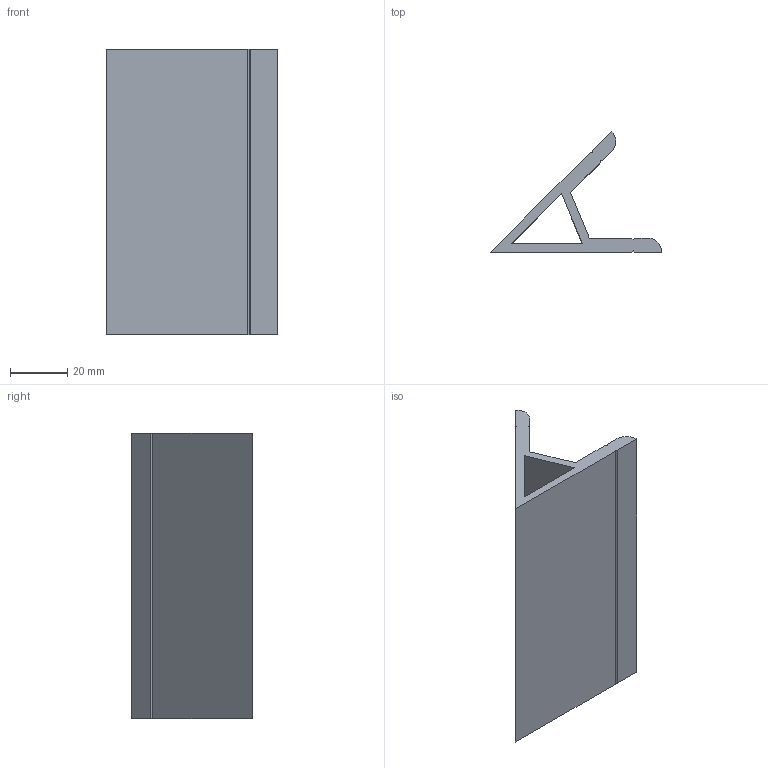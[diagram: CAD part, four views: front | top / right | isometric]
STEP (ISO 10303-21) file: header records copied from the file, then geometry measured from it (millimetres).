
FILE_DESCRIPTION (( 'STEP AP203' ), '1' );
FILE_NAME ('WA6045.STEP', '2024-02-19T11:58:33', ( '' ), ( '' ), 'SwSTEP 2.0', 'SolidWorks 2022', '' );
FILE_SCHEMA (( 'CONFIG_CONTROL_DESIGN' ));
Length unit declared in the file: millimetre
Products named in the file (1): WA6045
Bounding box: 60 x 42.43 x 100 mm (x, y, z)
Volume: 48737 mm3; surface area: 27421.3 mm2
Topology: 1 solids, 1 shells, 24 faces, 66 edges, 44 vertices
Faces by surface type: plane 22, cylinder 2
Entity records: 835 total; most frequent: CARTESIAN_POINT 135, ORIENTED_EDGE 132, DIRECTION 120, EDGE_CURVE 66, LINE 62, VECTOR 62, VERTEX_POINT 44, AXIS2_PLACEMENT_3D 29
